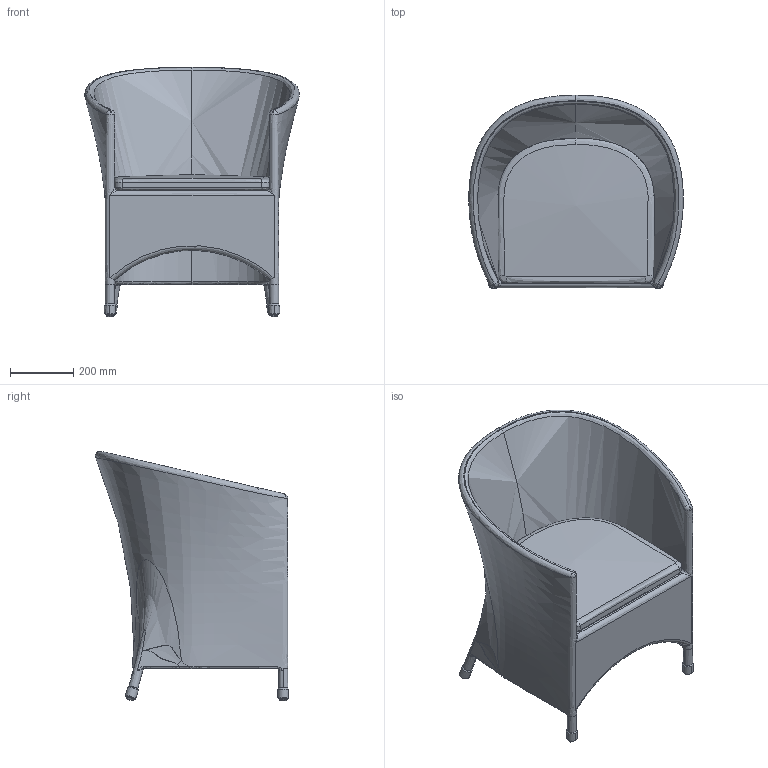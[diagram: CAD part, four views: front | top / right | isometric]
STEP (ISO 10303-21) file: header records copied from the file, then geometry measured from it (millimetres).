
FILE_DESCRIPTION(/* description */ (''),/* implementation_level */ '2;1');
FILE_NAME(/* name */ 'KINOSH~3',/* time_stamp */ '2019-07-19T09:47:40+09:00',/* author */ (''),/* organization */ (''),/* preprocessor_version */ 'ST-DEVELOPER v15',/* originating_system */ '',/* authorisation */ '');
FILE_SCHEMA (('AUTOMOTIVE_DESIGN'));
Length unit declared in the file: millimetre
Products named in the file (1): Document
Bounding box: 679.12 x 612.1 x 789.99 mm (x, y, z)
Volume: 139609.5 mm3; surface area: 2969638.7 mm2
Topology: 4 solids, 7 shells, 168 faces, 410 edges, 238 vertices
Faces by surface type: bspline 140, plane 28
Entity records: 41517 total; most frequent: CARTESIAN_POINT 39277, ORIENTED_EDGE 764, EDGE_CURVE 402, VERTEX_POINT 238, B_SPLINE_CURVE_WITH_KNOTS 179, EDGE_LOOP 172, ADVANCED_FACE 168, FACE_OUTER_BOUND 168
